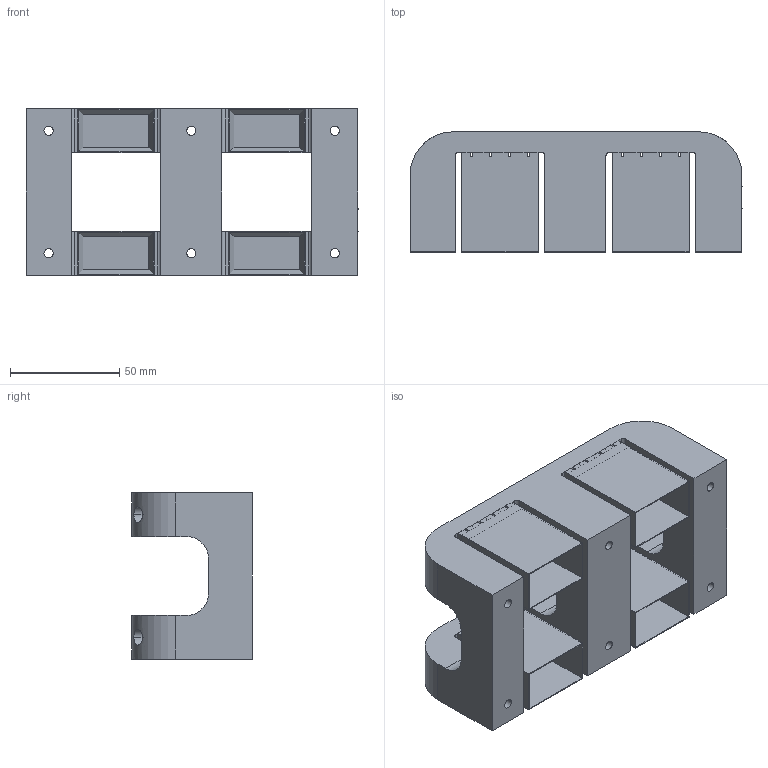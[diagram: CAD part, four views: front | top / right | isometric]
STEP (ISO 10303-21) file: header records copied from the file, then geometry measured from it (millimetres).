
FILE_DESCRIPTION(/* description */ ('VariCAD 2019-1.03 AP-214'),/* implementation_level */ '2;1');
FILE_NAME(/* name */ '0393-27-22.stp',/* time_stamp */ '2019-05-26T12:21:15-07:00',/* author */ (''),/* organization */ (''),/* preprocessor_version */ 'VariCAD 2019-1.03',/* originating_system */ 'VariCAD 2019-1.03; kernel version (20180118)',/* authorisation */ '');
FILE_SCHEMA(('AUTOMOTIVE_DESIGN'));
Length unit declared in the file: millimetre
Products named in the file (2): 0393-27-22
Assembly tree (1 placements, depth 2):
  0393-27-22
    (unnamed)
Bounding box: 151.9 x 55 x 76.1 mm (x, y, z)
Volume: 232709.1 mm3; surface area: 97486.6 mm2
Topology: 1 solids, 1 shells, 354 faces, 1014 edges, 636 vertices
Faces by surface type: plane 312, cylinder 42
Entity records: 13357 total; most frequent: CARTESIAN_POINT 2148, ORIENTED_EDGE 2028, DIRECTION 1798, EDGE_CURVE 1014, LINE 930, VECTOR 930, VERTEX_POINT 636, AXIS2_PLACEMENT_3D 434
